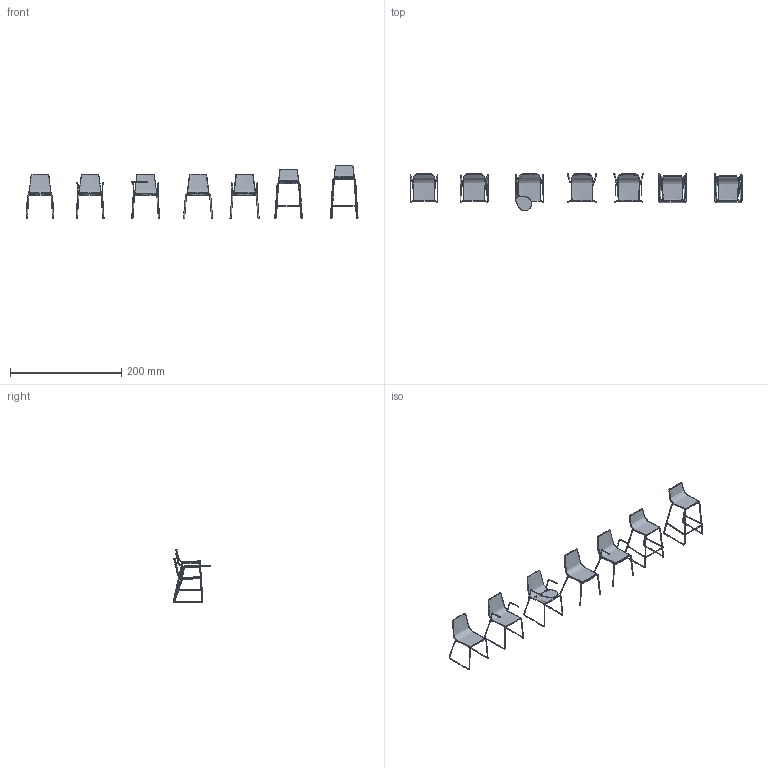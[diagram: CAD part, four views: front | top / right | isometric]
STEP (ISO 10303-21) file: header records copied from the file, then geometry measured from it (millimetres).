
FILE_DESCRIPTION(/* description */ (''),/* implementation_level */ '2;1');
FILE_NAME(/* name */ 'TRUE_Marina chairs_3D',/* time_stamp */ '2026-02-05T13:04:33+01:00',/* author */ (''),/* organization */ (''),/* preprocessor_version */ 'ST-DEVELOPER v16.5',/* originating_system */ '',/* authorisation */ '');
FILE_SCHEMA (('CONFIG_CONTROL_DESIGN'));
Length unit declared in the file: millimetre
Products named in the file (1): Document
Bounding box: 596.85 x 67.27 x 95.57 mm (x, y, z)
Volume: 9537.8 mm3; surface area: 84735.3 mm2
Topology: 36 solids, 252 shells, 808 faces, 2138 edges, 1527 vertices
Faces by surface type: bspline 450, cylinder 222, plane 136
Entity records: 99039 total; most frequent: CARTESIAN_POINT 87154, ORIENTED_EDGE 3296, EDGE_CURVE 2069, VERTEX_POINT 1466, EDGE_LOOP 809, ADVANCED_FACE 808, FACE_OUTER_BOUND 808, B_SPLINE_CURVE_WITH_KNOTS 787
